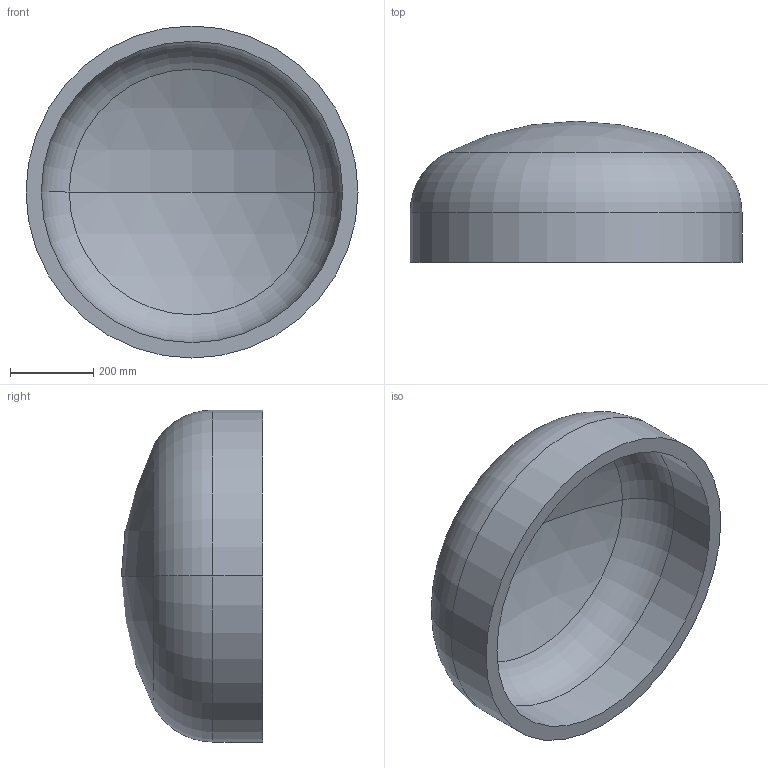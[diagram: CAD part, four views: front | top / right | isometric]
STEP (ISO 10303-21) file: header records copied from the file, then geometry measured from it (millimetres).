
FILE_DESCRIPTION (( 'STEP AP203' ), '1' );
FILE_NAME ('DIN 28013 Korbbogenform_-_Boden DIN 28013 - 800 x 120 - I - s=37.step', '2016-07-01T08:16:08', ( '' ), ( '' ), 'SwSTEP 2.0', 'SolidWorks 2013', '' );
FILE_SCHEMA (( 'CONFIG_CONTROL_DESIGN' ));
Length unit declared in the file: millimetre
Products named in the file (1): DIN 28013 Korbbogenform_-_Boden DIN 28013 - 800 x 120 - I - s=37
Bounding box: 800 x 340.29 x 800 mm (x, y, z)
Volume: 34982746.5 mm3; surface area: 1982516.4 mm2
Topology: 1 solids, 1 shells, 13 faces, 24 edges, 14 vertices
Faces by surface type: torus 4, cylinder 4, sphere 4, plane 1
Entity records: 407 total; most frequent: DIRECTION 72, CARTESIAN_POINT 52, ORIENTED_EDGE 48, AXIS2_PLACEMENT_3D 34, EDGE_CURVE 24, CIRCLE 20, VERTEX_POINT 14, EDGE_LOOP 14
